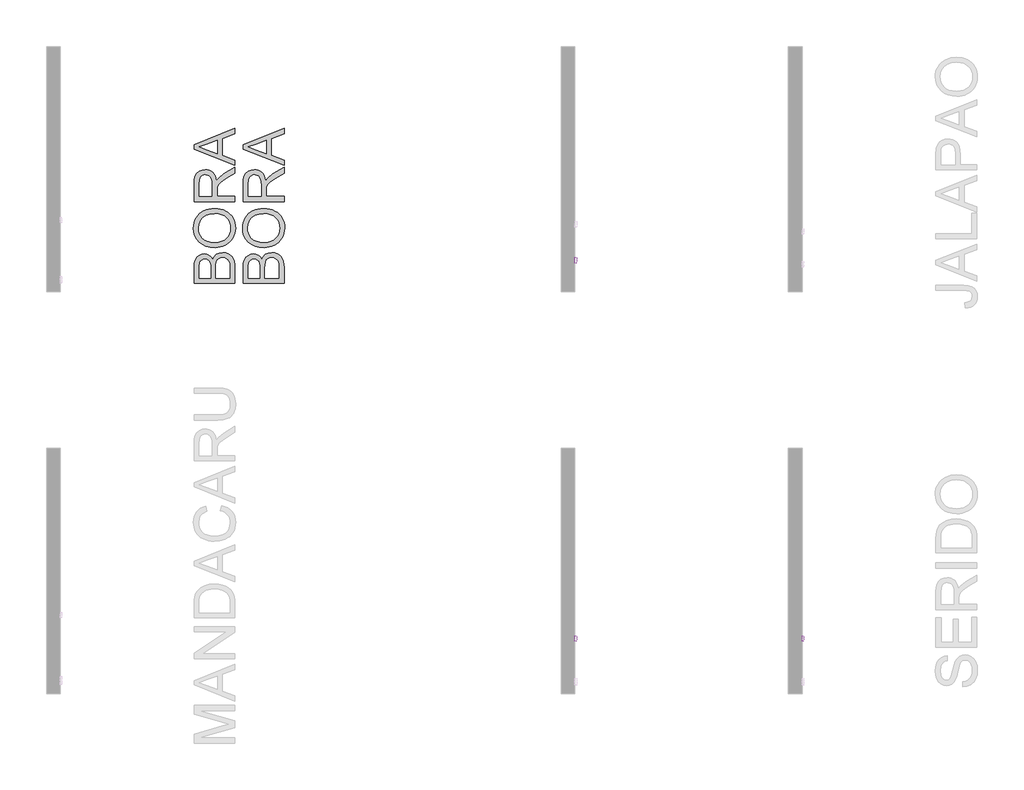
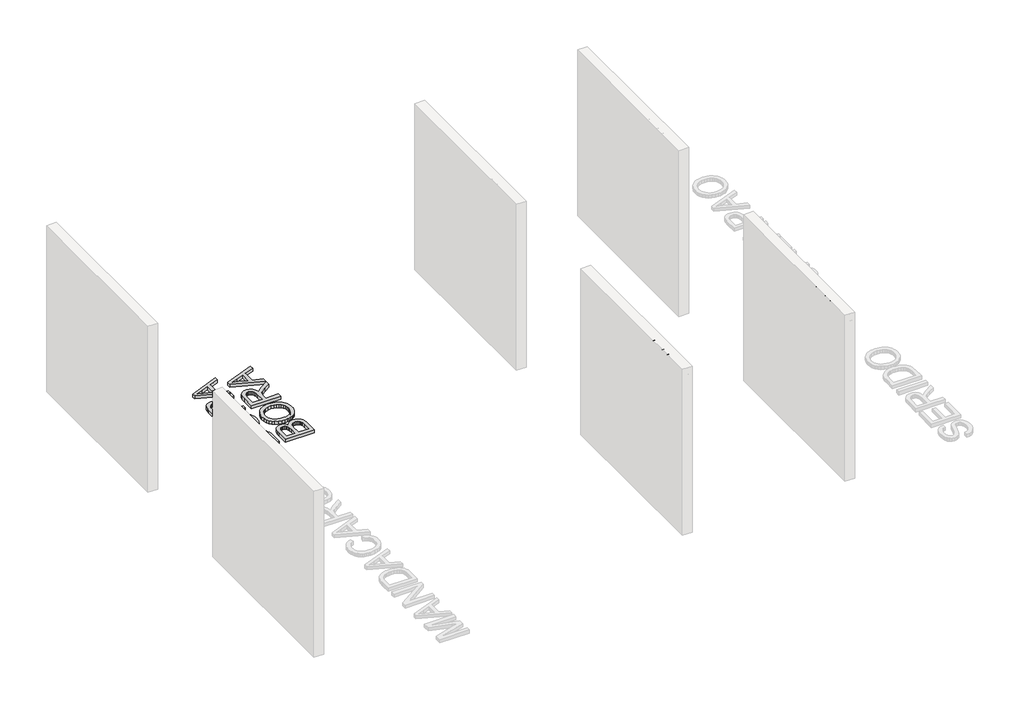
# One storey, part 9 of 11: 4 proxies.
"""IFC4 building model written with IfcOpenShell, lengths in millimetres."""

from ifc_helpers import new_model, si_unit, frame, origin, origin_with_axes, place, context, project, spatial, polyline, outline, extrude, element, save

model = new_model("IFC4")

# Units and contexts
model_context = context("Model", 3, world=origin())
ifc_project = project(units=[si_unit("LENGTHUNIT", "METRE", prefix="MILLI")], contexts=[model_context])

# Site, building, storey
site = spatial("IfcSite", under=ifc_project)
building = spatial("IfcBuilding", under=site)
storey = spatial("IfcBuildingStorey", under=building, Name="PORTOBELLO - SHOWROOM", Elevation=0.0)

# Proxies
placement = place(None, origin())
element("IfcBuildingElementProxy", 1, Name="10mm Arial", ObjectType="10mm Arial", at=placement, inside=storey, context=model_context, shape_type="SweptSolid", body=[
    extrude(outline(polyline([(6073.6705647, 2506.4304512), (6086.2276035, 2508.049132), (6090.5195601, 2493.2112249), (6101.1145616, 2489.2135739), (6109.7107375, 2491.4821795), (6114.6894072, 2497.662597), (6116.0505706, 2510.1092712), (6116.0505706, 2578.6824751), (6128.6076093, 2578.6824751), (6128.6076093, 2510.3300004), (6125.5787143, 2490.8199919), (6115.9647314, 2480.2863041), (6100.5259504, 2476.6565351), (6088.9192734, 2478.5296676), (6080.3905425, 2484.1490651), (6075.2156691, 2493.4656766), (6073.6705647, 2506.4304512)])), frame((-19283.2092306, 0.0, 0.0), z_axis=(1.0, 0.0, 0.0), x_axis=(0.0, 1.0, 0.0)), (0.0, 0.0, 1.0), 20.0),
    extrude(outline(polyline([(6196.1016927, 2487.643944), (6183.9247987, 2479.1336072), (6170.4725804, 2476.6565351), (6159.9787465, 2478.1464572), (6152.2378962, 2482.6162234), (6147.4646273, 2489.4036462), (6145.8735377, 2497.846538), (6148.2770334, 2507.7793519), (6154.5923409, 2514.989839), (6163.3847206, 2519.1101173), (6174.2495022, 2520.9985782), (6196.0281163, 2525.3150603), (6196.1016927, 2528.1109635), (6192.643602, 2537.3815898), (6178.762188, 2541.0113588), (6166.0579965, 2538.5956003), (6160.0002063, 2530.0239499), (6147.4431675, 2531.5935797), (6152.8755583, 2543.8563129), (6163.8139163, 2551.0422745), (6180.3808688, 2553.5683975), (6195.5989207, 2551.3365801), (6204.1950966, 2545.732511), (6208.0455948, 2537.2099115), (6208.6587315, 2526.2225026), (6208.6587315, 2510.5997805), (6209.2963936, 2488.7843782), (6211.7979912, 2478.2261649), (6199.2409524, 2478.2261649), (6196.1016927, 2487.643944)]), holes=[polyline([(6196.1016927, 2512.7580215), (6175.8436575, 2508.9075233), (6165.0401896, 2506.8719096), (6160.1473591, 2503.5609717), (6158.4305764, 2498.7294548), (6162.17071, 2491.9359006), (6173.1458562, 2489.2135739), (6185.8500478, 2492.2179435), (6194.0415536, 2499.4897443), (6196.0281163, 2509.2018289), (6196.1016927, 2512.7580215)])]), frame((-19283.2092306, 0.0, 0.0), z_axis=(1.0, 0.0, 0.0), x_axis=(0.0, 1.0, 0.0)), (0.0, 0.0, 1.0), 20.0),
    extrude(outline(polyline([(6225.9246598, 2449.9728277), (6225.9246598, 2551.9987677), (6238.4816986, 2551.9987677), (6238.4816986, 2539.6869836), (6247.1637137, 2550.0980441), (6258.8868866, 2553.5683975), (6274.8039142, 2548.7123552), (6285.202712, 2535.027145), (6288.7098537, 2515.676552), (6284.7489908, 2495.3326777), (6273.2465471, 2481.4757892), (6257.3663077, 2476.6565351), (6246.4402124, 2479.8816339), (6238.4816986, 2488.0363515), (6238.4816986, 2449.9728277), (6225.9246598, 2449.9728277)]), holes=[polyline([(6238.4816986, 2514.5238551), (6239.8397963, 2503.2666661), (6243.9140894, 2495.3939914), (6249.9258943, 2490.7586782), (6257.0965275, 2489.2135739), (6264.3836567, 2490.8138605), (6270.5487458, 2495.6147206), (6274.7517976, 2503.7755695), (6276.1528149, 2515.4558228), (6274.7855201, 2526.6516982), (6270.6836359, 2534.6347375), (6264.681028, 2539.4172035), (6257.6115623, 2541.0113588), (6250.5145055, 2539.3160359), (6244.2819714, 2534.2300673), (6239.9317668, 2525.9128686), (6238.4816986, 2514.5238551)])]), frame((-19283.2092306, 0.0, 0.0), z_axis=(1.0, 0.0, 0.0), x_axis=(0.0, 1.0, 0.0)), (0.0, 0.0, 1.0), 20.0),
    extrude(outline(polyline([(6349.9254176, 2487.643944), (6337.7485236, 2479.1336072), (6324.2963053, 2476.6565351), (6313.8024714, 2478.1464572), (6306.0616211, 2482.6162234), (6301.2883522, 2489.4036462), (6299.6972626, 2497.846538), (6302.1007583, 2507.7793519), (6308.4160659, 2514.989839), (6317.2084455, 2519.1101173), (6328.0732271, 2520.9985782), (6349.8518412, 2525.3150603), (6349.9254176, 2528.1109635), (6346.4673269, 2537.3815898), (6332.5859129, 2541.0113588), (6319.8817214, 2538.5956003), (6313.8239312, 2530.0239499), (6301.2668924, 2531.5935797), (6306.6992832, 2543.8563129), (6317.6376412, 2551.0422745), (6334.2045937, 2553.5683975), (6349.4226456, 2551.3365801), (6358.0188215, 2545.732511), (6361.8693198, 2537.2099115), (6362.4824564, 2526.2225026), (6362.4824564, 2510.5997805), (6363.1201185, 2488.7843782), (6365.6217161, 2478.2261649), (6353.0646773, 2478.2261649), (6349.9254176, 2487.643944)]), holes=[polyline([(6349.9254176, 2512.7580215), (6329.6673824, 2508.9075233), (6318.8639145, 2506.8719096), (6313.971084, 2503.5609717), (6312.2543013, 2498.7294548), (6315.994435, 2491.9359006), (6326.9695811, 2489.2135739), (6339.6737727, 2492.2179435), (6347.8652785, 2499.4897443), (6349.8518412, 2509.2018289), (6349.9254176, 2512.7580215)])]), frame((-19283.2092306, 0.0, 0.0), z_axis=(1.0, 0.0, 0.0), x_axis=(0.0, 1.0, 0.0)), (0.0, 0.0, 1.0), 20.0),
    extrude(outline(polyline([(-19263.2092306, 6392.3054235), (-19263.2092306, 6379.7483847), (-19283.2092306, 6379.7483847), (-19283.2092306, 6392.3054235), (-19263.2092306, 6392.3054235)])), frame((0.0, 0.0, 2478.2261649), z_axis=(0.0, 0.0, 1.0), x_axis=(1.0, 0.0, 0.0)), (0.0, 0.0, 1.0), 100.4563101),
    extrude(outline(polyline([(6411.1409816, 2449.9728277), (6411.1409816, 2551.9987677), (6423.6980204, 2551.9987677), (6423.6980204, 2539.6869836), (6432.3800355, 2550.0980441), (6444.1032084, 2553.5683975), (6460.0202361, 2548.7123552), (6470.4190338, 2535.027145), (6473.9261755, 2515.676552), (6469.9653127, 2495.3326777), (6458.462869, 2481.4757892), (6442.5826295, 2476.6565351), (6431.6565342, 2479.8816339), (6423.6980204, 2488.0363515), (6423.6980204, 2449.9728277), (6411.1409816, 2449.9728277)]), holes=[polyline([(6423.6980204, 2514.5238551), (6425.0561181, 2503.2666661), (6429.1304112, 2495.3939914), (6435.1422161, 2490.7586782), (6442.3128494, 2489.2135739), (6449.5999786, 2490.8138605), (6455.7650677, 2495.6147206), (6459.9681195, 2503.7755695), (6461.3691367, 2515.4558228), (6460.001842, 2526.6516982), (6455.8999577, 2534.6347375), (6449.8973498, 2539.4172035), (6442.8278842, 2541.0113588), (6435.7308273, 2539.3160359), (6429.4982932, 2534.2300673), (6425.1480886, 2525.9128686), (6423.6980204, 2514.5238551)])]), frame((-19283.2092306, 0.0, 0.0), z_axis=(1.0, 0.0, 0.0), x_axis=(0.0, 1.0, 0.0)), (0.0, 0.0, 1.0), 20.0),
    extrude(outline(polyline([(6535.1417395, 2487.643944), (6522.9648454, 2479.1336072), (6509.5126272, 2476.6565351), (6499.0187932, 2478.1464572), (6491.2779429, 2482.6162234), (6486.504674, 2489.4036462), (6484.9135844, 2497.846538), (6487.3170801, 2507.7793519), (6493.6323877, 2514.989839), (6502.4247674, 2519.1101173), (6513.289549, 2520.9985782), (6535.0681631, 2525.3150603), (6535.1417395, 2528.1109635), (6531.6836487, 2537.3815898), (6517.8022348, 2541.0113588), (6505.0980432, 2538.5956003), (6499.040253, 2530.0239499), (6486.4832143, 2531.5935797), (6491.9156051, 2543.8563129), (6502.853963, 2551.0422745), (6519.4209156, 2553.5683975), (6534.6389674, 2551.3365801), (6543.2351434, 2545.732511), (6547.0856416, 2537.2099115), (6547.6987783, 2526.2225026), (6547.6987783, 2510.5997805), (6548.3364404, 2488.7843782), (6550.8380379, 2478.2261649), (6538.2809992, 2478.2261649), (6535.1417395, 2487.643944)]), holes=[polyline([(6535.1417395, 2512.7580215), (6514.8837043, 2508.9075233), (6504.0802364, 2506.8719096), (6499.1874058, 2503.5609717), (6497.4706232, 2498.7294548), (6501.2107568, 2491.9359006), (6512.185903, 2489.2135739), (6524.8900946, 2492.2179435), (6533.0816003, 2499.4897443), (6535.0681631, 2509.2018289), (6535.1417395, 2512.7580215)])]), frame((-19283.2092306, 0.0, 0.0), z_axis=(1.0, 0.0, 0.0), x_axis=(0.0, 1.0, 0.0)), (0.0, 0.0, 1.0), 20.0),
    extrude(outline(polyline([(6561.8254469, 2515.1124663), (6564.5416423, 2532.8995608), (6572.6902285, 2545.4014173), (6582.7579324, 2551.5266525), (6594.8121991, 2553.5683975), (6608.0038343, 2551.0821284), (6618.5405878, 2543.6233209), (6625.4475723, 2531.7805864), (6627.7499004, 2516.1425359), (6623.678673, 2493.7998361), (6611.82061, 2481.1569582), (6594.8121991, 2476.6565351), (6581.4611484, 2479.1336072), (6570.9366576, 2486.5648235), (6564.1032496, 2498.6558784), (6561.8254469, 2515.1124663)]), holes=[polyline([(6574.3824856, 2515.1369918), (6575.8356195, 2503.7725038), (6580.1950212, 2495.6760342), (6586.7555834, 2490.829189), (6594.8121991, 2489.2135739), (6602.8320266, 2490.838386), (6609.3803261, 2495.7128224), (6613.7397278, 2503.9165909), (6615.1928616, 2515.5293992), (6613.7305307, 2526.5627934), (6609.3435379, 2534.5488984), (6602.7860413, 2539.3957437), (6594.8121991, 2541.0113588), (6586.7555834, 2539.401875), (6580.1950212, 2534.5734239), (6575.8356195, 2526.4953484), (6574.3824856, 2515.1369918)])]), frame((-19283.2092306, 0.0, 0.0), z_axis=(1.0, 0.0, 0.0), x_axis=(0.0, 1.0, 0.0)), (0.0, 0.0, 1.0), 20.0),
])
element("IfcBuildingElementProxy", 2, Name="10mm Arial Narrow", ObjectType="10mm Arial Narrow", at=placement, inside=storey, context=model_context, shape_type="SweptSolid", body=[
    extrude(outline(polyline([(2137.0841432, 2478.2261649), (2137.0841432, 2578.9447687), (2168.3810279, 2578.9447687), (2184.6767294, 2577.066448), (2196.1497156, 2567.5860048), (2200.439394, 2550.566896), (2198.6530856, 2538.4910704), (2193.2941604, 2528.8646766), (2183.5503716, 2522.5634182), (2168.6094723, 2520.4629988), (2146.8311049, 2520.4629988), (2146.8311049, 2478.2261649), (2137.0841432, 2478.2261649)]), holes=[polyline([(2146.8311049, 2531.834454), (2169.8024598, 2531.834454), (2185.6666552, 2536.3652682), (2190.6924323, 2550.033859), (2188.2176179, 2560.1996354), (2182.239989, 2565.9995852), (2169.5740154, 2567.5733134), (2146.8311049, 2567.5733134), (2146.8311049, 2531.834454)])]), frame((-16783.2092306, 0.0, 0.0), z_axis=(1.0, 0.0, 0.0), x_axis=(0.0, 1.0, 0.0)), (0.0, 0.0, 1.0), 20.0),
    extrude(outline(polyline([(2208.561862, 2514.7772711), (2210.5163309, 2531.3680467), (2216.3797375, 2543.3201315), (2225.2383042, 2550.5446861), (2236.1782534, 2552.9528709), (2246.991289, 2550.5446861), (2255.8752384, 2543.3201315), (2261.8147932, 2531.558417), (2263.7946447, 2515.5387525), (2261.8496944, 2498.3768659), (2256.0148433, 2486.2344108), (2247.1657951, 2479.0098562), (2236.1782534, 2476.6016713), (2225.3176252, 2479.0162019), (2216.4431943, 2486.2597935), (2210.5321951, 2498.218224), (2208.561862, 2514.7772711)]), holes=[polyline([(2218.3088237, 2514.8026538), (2219.6128606, 2502.2509024), (2223.5249711, 2493.3796444), (2229.3661679, 2488.1063858), (2236.4574632, 2486.348633), (2243.1775364, 2488.12225), (2248.8696097, 2493.4431012), (2252.7531647, 2502.3302234), (2254.0476831, 2514.8026538), (2252.7436462, 2527.3163312), (2248.8315356, 2536.1748979), (2242.9903389, 2541.4481564), (2235.8990435, 2543.2059093), (2229.1313778, 2541.4386379), (2223.448823, 2536.1368238), (2219.5938235, 2527.2687386), (2218.3088237, 2514.8026538)])]), frame((-16783.2092306, 0.0, 0.0), z_axis=(1.0, 0.0, 0.0), x_axis=(0.0, 1.0, 0.0)), (0.0, 0.0, 1.0), 20.0),
    extrude(outline(polyline([(2335.2723635, 2486.348633), (2336.8968571, 2476.6016713), (2329.5358705, 2476.6016713), (2321.2611062, 2478.7211278), (2316.946045, 2484.5210777), (2315.7784402, 2499.1669029), (2315.7784402, 2541.5814157), (2307.6559722, 2541.5814157), (2307.6559722, 2544.8304029), (2306.0314786, 2539.9569221), (2298.4674302, 2541.5814157), (2292.3882705, 2539.2588975), (2288.5174068, 2532.7736144), (2286.5375553, 2517.3663078), (2286.5375553, 2478.2261649), (2276.7905936, 2478.2261649), (2276.7905936, 2551.3283773), (2286.5375553, 2551.3283773), (2286.5375553, 2541.6321811), (2292.7817026, 2550.7191922), (2299.1781462, 2552.9528709), (2307.6559722, 2551.3283773), (2315.7784402, 2551.3283773), (2315.7784402, 2567.5733134), (2325.5254019, 2575.6957815), (2325.5254019, 2551.3283773), (2335.2723635, 2551.3283773), (2335.2723635, 2541.5814157), (2325.5254019, 2541.5814157), (2325.5254019, 2496.9332241), (2326.3884141, 2488.9376697), (2331.0080678, 2486.348633), (2335.2723635, 2486.348633)])), frame((-16783.2092306, 0.0, 0.0), z_axis=(1.0, 0.0, 0.0), x_axis=(0.0, 1.0, 0.0)), (0.0, 0.0, 1.0), 20.0),
    extrude(outline(polyline([(2341.770338, 2514.7772711), (2343.7248068, 2531.3680467), (2349.5882135, 2543.3201315), (2358.4467802, 2550.5446861), (2369.3867293, 2552.9528709), (2380.1997649, 2550.5446861), (2389.0837143, 2543.3201315), (2395.0232691, 2531.558417), (2397.0031207, 2515.5387525), (2395.0581703, 2498.3768659), (2389.2233192, 2486.2344108), (2380.3742711, 2479.0098562), (2369.3867293, 2476.6016713), (2358.5261011, 2479.0162019), (2349.6516702, 2486.2597935), (2343.740671, 2498.218224), (2341.770338, 2514.7772711)]), holes=[polyline([(2351.5172996, 2514.8026538), (2352.8213365, 2502.2509024), (2356.7334471, 2493.3796444), (2362.5746438, 2488.1063858), (2369.6659392, 2486.348633), (2376.3860123, 2488.12225), (2382.0780856, 2493.4431012), (2385.9616407, 2502.3302234), (2387.256159, 2514.8026538), (2385.9521222, 2527.3163312), (2382.0400116, 2536.1748979), (2376.1988148, 2541.4481564), (2369.1075195, 2543.2059093), (2362.3398537, 2541.4386379), (2356.6572989, 2536.1368238), (2352.8022994, 2527.2687386), (2351.5172996, 2514.8026538)])]), frame((-16783.2092306, 0.0, 0.0), z_axis=(1.0, 0.0, 0.0), x_axis=(0.0, 1.0, 0.0)), (0.0, 0.0, 1.0), 20.0),
    extrude(outline(polyline([(2419.7460312, 2478.2261649), (2409.9990695, 2478.2261649), (2409.9990695, 2578.9447687), (2419.7460312, 2578.9447687), (2419.7460312, 2543.5358846), (2427.1450919, 2550.6176614), (2436.3463253, 2552.9528709), (2449.2280519, 2548.752032), (2458.5054334, 2536.0226016), (2461.982865, 2515.3356908), (2460.050606, 2498.8813473), (2454.253829, 2486.6786082), (2445.8807067, 2479.1209056), (2436.2194117, 2476.6016713), (2426.8785734, 2479.2160907), (2419.7460312, 2486.9832008), (2419.7460312, 2478.2261649)]), holes=[polyline([(2419.7460312, 2515.3356908), (2421.8274136, 2498.0881376), (2427.716203, 2489.3564844), (2436.1686463, 2486.348633), (2442.1113739, 2488.1381142), (2447.3497312, 2493.5065579), (2452.2359034, 2514.9295674), (2447.5274102, 2536.3652682), (2442.2827072, 2541.495749), (2435.9655846, 2543.2059093), (2429.9879557, 2541.416428), (2424.6956602, 2536.0479843), (2419.7460312, 2515.3356908)])]), frame((-16783.2092306, 0.0, 0.0), z_axis=(1.0, 0.0, 0.0), x_axis=(0.0, 1.0, 0.0)), (0.0, 0.0, 1.0), 20.0),
    extrude(outline(polyline([(2513.9666605, 2500.9690755), (2523.7136222, 2499.3445819), (2520.0140918, 2489.4580153), (2514.1951049, 2482.3381644), (2506.4914516, 2478.0357946), (2497.137922, 2476.6016713), (2485.544368, 2479.0162019), (2476.4002458, 2486.2597935), (2470.460691, 2498.0659277), (2468.4808395, 2514.168086), (2470.4702096, 2530.8350097), (2476.4383199, 2543.0155389), (2485.4523557, 2550.4685379), (2496.5795024, 2552.9528709), (2507.2624515, 2550.5542046), (2516.0099689, 2543.3582056), (2521.8448199, 2531.618701), (2523.7897703, 2515.5895179), (2523.7136222, 2512.3405307), (2478.2278011, 2512.3405307), (2484.2308127, 2492.8973728), (2490.1608489, 2487.9858179), (2497.2648356, 2486.348633), (2507.4433034, 2490.0037436), (2513.9666605, 2500.9690755)]), holes=[polyline([(2478.8877516, 2522.0874924), (2513.9666605, 2522.0874924), (2509.7023648, 2536.3525769), (2503.8770322, 2541.4925762), (2496.6556505, 2543.2059093), (2484.4465657, 2537.4947989), (2478.8877516, 2522.0874924)])]), frame((-16783.2092306, 0.0, 0.0), z_axis=(1.0, 0.0, 0.0), x_axis=(0.0, 1.0, 0.0)), (0.0, 0.0, 1.0), 20.0),
    extrude(outline(polyline([(-16763.2092306, 2546.4565327), (-16763.2092306, 2536.709571), (-16783.2092306, 2536.709571), (-16783.2092306, 2546.4565327), (-16763.2092306, 2546.4565327)])), frame((0.0, 0.0, 2478.2261649), z_axis=(0.0, 0.0, 1.0), x_axis=(1.0, 0.0, 0.0)), (0.0, 0.0, 1.0), 100.7186038),
    extrude(outline(polyline([(-16763.2092306, 2572.4484304), (-16763.2092306, 2562.7014688), (-16783.2092306, 2562.7014688), (-16783.2092306, 2572.4484304), (-16763.2092306, 2572.4484304)])), frame((0.0, 0.0, 2478.2261649), z_axis=(0.0, 0.0, 1.0), x_axis=(1.0, 0.0, 0.0)), (0.0, 0.0, 1.0), 100.7186038),
    extrude(outline(polyline([(2583.8198857, 2514.7772711), (2585.7743546, 2531.3680467), (2591.6377612, 2543.3201315), (2600.4963279, 2550.5446861), (2611.436277, 2552.9528709), (2622.2493126, 2550.5446861), (2631.1332621, 2543.3201315), (2637.0728168, 2531.558417), (2639.0526684, 2515.5387525), (2637.107718, 2498.3768659), (2631.272867, 2486.2344108), (2622.4238188, 2479.0098562), (2611.436277, 2476.6016713), (2600.5756489, 2479.0162019), (2591.701218, 2486.2597935), (2585.7902188, 2498.218224), (2583.8198857, 2514.7772711)]), holes=[polyline([(2593.5668473, 2514.8026538), (2594.8708842, 2502.2509024), (2598.7829948, 2493.3796444), (2604.6241915, 2488.1063858), (2611.7154869, 2486.348633), (2618.4355601, 2488.12225), (2624.1276334, 2493.4431012), (2628.0111884, 2502.3302234), (2629.3057067, 2514.8026538), (2628.0016699, 2527.3163312), (2624.0895593, 2536.1748979), (2618.2483626, 2541.4481564), (2611.1570672, 2543.2059093), (2604.3894015, 2541.4386379), (2598.7068467, 2536.1368238), (2594.8518472, 2527.2687386), (2593.5668473, 2514.8026538)])]), frame((-16783.2092306, 0.0, 0.0), z_axis=(1.0, 0.0, 0.0), x_axis=(0.0, 1.0, 0.0)), (0.0, 0.0, 1.0), 20.0),
])
element("IfcBuildingElementProxy", 3, Name="10mm Arial Narrow", ObjectType="10mm Arial Narrow", at=placement, inside=storey, context=model_context, shape_type="SweptSolid", body=[
    extrude(outline(polyline([(2137.0841432, 2478.2261649), (2137.0841432, 2578.9447687), (2168.3810279, 2578.9447687), (2184.6767294, 2577.066448), (2196.1497156, 2567.5860048), (2200.439394, 2550.566896), (2198.6530856, 2538.4910704), (2193.2941604, 2528.8646766), (2183.5503716, 2522.5634182), (2168.6094723, 2520.4629988), (2146.8311049, 2520.4629988), (2146.8311049, 2478.2261649), (2137.0841432, 2478.2261649)]), holes=[polyline([(2146.8311049, 2531.834454), (2169.8024598, 2531.834454), (2185.6666552, 2536.3652682), (2190.6924323, 2550.033859), (2188.2176179, 2560.1996354), (2182.239989, 2565.9995852), (2169.5740154, 2567.5733134), (2146.8311049, 2567.5733134), (2146.8311049, 2531.834454)])]), frame((-19283.2092306, 0.0, 0.0), z_axis=(1.0, 0.0, 0.0), x_axis=(0.0, 1.0, 0.0)), (0.0, 0.0, 1.0), 20.0),
    extrude(outline(polyline([(2208.561862, 2514.7772711), (2210.5163309, 2531.3680467), (2216.3797375, 2543.3201315), (2225.2383042, 2550.5446861), (2236.1782534, 2552.9528709), (2246.991289, 2550.5446861), (2255.8752384, 2543.3201315), (2261.8147932, 2531.558417), (2263.7946447, 2515.5387525), (2261.8496944, 2498.3768659), (2256.0148433, 2486.2344108), (2247.1657951, 2479.0098562), (2236.1782534, 2476.6016713), (2225.3176252, 2479.0162019), (2216.4431943, 2486.2597935), (2210.5321951, 2498.218224), (2208.561862, 2514.7772711)]), holes=[polyline([(2218.3088237, 2514.8026538), (2219.6128605, 2502.2509024), (2223.5249711, 2493.3796444), (2229.3661679, 2488.1063858), (2236.4574632, 2486.348633), (2243.1775364, 2488.12225), (2248.8696097, 2493.4431012), (2252.7531647, 2502.3302234), (2254.0476831, 2514.8026538), (2252.7436462, 2527.3163312), (2248.8315356, 2536.1748979), (2242.9903389, 2541.4481564), (2235.8990435, 2543.2059093), (2229.1313778, 2541.4386379), (2223.448823, 2536.1368238), (2219.5938235, 2527.2687386), (2218.3088237, 2514.8026538)])]), frame((-19283.2092306, 0.0, 0.0), z_axis=(1.0, 0.0, 0.0), x_axis=(0.0, 1.0, 0.0)), (0.0, 0.0, 1.0), 20.0),
    extrude(outline(polyline([(2335.2723635, 2486.348633), (2336.8968571, 2476.6016713), (2329.5358705, 2476.6016713), (2321.2611062, 2478.7211278), (2316.946045, 2484.5210777), (2315.7784402, 2499.1669029), (2315.7784402, 2541.5814157), (2307.6559722, 2541.5814157), (2307.6559722, 2544.8304029), (2306.0314786, 2539.9569221), (2298.4674302, 2541.5814157), (2292.3882705, 2539.2588975), (2288.5174068, 2532.7736144), (2286.5375553, 2517.3663078), (2286.5375553, 2478.2261649), (2276.7905936, 2478.2261649), (2276.7905936, 2551.3283773), (2286.5375553, 2551.3283773), (2286.5375553, 2541.6321811), (2292.7817026, 2550.7191922), (2299.1781462, 2552.9528709), (2307.6559722, 2551.3283773), (2315.7784402, 2551.3283773), (2315.7784402, 2567.5733134), (2325.5254019, 2575.6957815), (2325.5254019, 2551.3283773), (2335.2723635, 2551.3283773), (2335.2723635, 2541.5814157), (2325.5254019, 2541.5814157), (2325.5254019, 2496.9332241), (2326.3884141, 2488.9376697), (2331.0080678, 2486.348633), (2335.2723635, 2486.348633)])), frame((-19283.2092306, 0.0, 0.0), z_axis=(1.0, 0.0, 0.0), x_axis=(0.0, 1.0, 0.0)), (0.0, 0.0, 1.0), 20.0),
    extrude(outline(polyline([(2341.770338, 2514.7772711), (2343.7248068, 2531.3680467), (2349.5882135, 2543.3201315), (2358.4467802, 2550.5446861), (2369.3867293, 2552.9528709), (2380.1997649, 2550.5446861), (2389.0837143, 2543.3201315), (2395.0232691, 2531.558417), (2397.0031207, 2515.5387525), (2395.0581703, 2498.3768659), (2389.2233192, 2486.2344108), (2380.3742711, 2479.0098562), (2369.3867293, 2476.6016713), (2358.5261011, 2479.0162019), (2349.6516702, 2486.2597935), (2343.740671, 2498.218224), (2341.770338, 2514.7772711)]), holes=[polyline([(2351.5172996, 2514.8026538), (2352.8213365, 2502.2509024), (2356.7334471, 2493.3796444), (2362.5746438, 2488.1063858), (2369.6659392, 2486.348633), (2376.3860123, 2488.12225), (2382.0780856, 2493.4431012), (2385.9616407, 2502.3302234), (2387.256159, 2514.8026538), (2385.9521222, 2527.3163312), (2382.0400116, 2536.1748979), (2376.1988148, 2541.4481564), (2369.1075195, 2543.2059093), (2362.3398537, 2541.4386379), (2356.6572989, 2536.1368238), (2352.8022994, 2527.2687386), (2351.5172996, 2514.8026538)])]), frame((-19283.2092306, 0.0, 0.0), z_axis=(1.0, 0.0, 0.0), x_axis=(0.0, 1.0, 0.0)), (0.0, 0.0, 1.0), 20.0),
    extrude(outline(polyline([(2419.7460312, 2478.2261649), (2409.9990695, 2478.2261649), (2409.9990695, 2578.9447687), (2419.7460312, 2578.9447687), (2419.7460312, 2543.5358846), (2427.1450919, 2550.6176614), (2436.3463253, 2552.9528709), (2449.2280519, 2548.752032), (2458.5054334, 2536.0226016), (2461.982865, 2515.3356908), (2460.050606, 2498.8813473), (2454.253829, 2486.6786082), (2445.8807067, 2479.1209056), (2436.2194117, 2476.6016713), (2426.8785734, 2479.2160907), (2419.7460312, 2486.9832008), (2419.7460312, 2478.2261649)]), holes=[polyline([(2419.7460312, 2515.3356908), (2421.8274136, 2498.0881376), (2427.716203, 2489.3564844), (2436.1686463, 2486.348633), (2442.1113739, 2488.1381142), (2447.3497312, 2493.5065579), (2452.2359034, 2514.9295674), (2447.5274102, 2536.3652682), (2442.2827072, 2541.495749), (2435.9655846, 2543.2059093), (2429.9879557, 2541.416428), (2424.6956602, 2536.0479843), (2419.7460312, 2515.3356908)])]), frame((-19283.2092306, 0.0, 0.0), z_axis=(1.0, 0.0, 0.0), x_axis=(0.0, 1.0, 0.0)), (0.0, 0.0, 1.0), 20.0),
    extrude(outline(polyline([(2513.9666605, 2500.9690755), (2523.7136222, 2499.3445819), (2520.0140918, 2489.4580153), (2514.1951049, 2482.3381644), (2506.4914516, 2478.0357946), (2497.137922, 2476.6016713), (2485.544368, 2479.0162019), (2476.4002458, 2486.2597935), (2470.460691, 2498.0659277), (2468.4808395, 2514.168086), (2470.4702096, 2530.8350097), (2476.4383199, 2543.0155389), (2485.4523557, 2550.4685379), (2496.5795024, 2552.9528709), (2507.2624515, 2550.5542046), (2516.0099689, 2543.3582056), (2521.8448199, 2531.618701), (2523.7897703, 2515.5895179), (2523.7136222, 2512.3405307), (2478.2278011, 2512.3405307), (2484.2308127, 2492.8973728), (2490.1608489, 2487.9858179), (2497.2648356, 2486.348633), (2507.4433034, 2490.0037436), (2513.9666605, 2500.9690755)]), holes=[polyline([(2478.8877516, 2522.0874924), (2513.9666605, 2522.0874924), (2509.7023648, 2536.3525769), (2503.8770322, 2541.4925762), (2496.6556505, 2543.2059093), (2484.4465657, 2537.4947989), (2478.8877516, 2522.0874924)])]), frame((-19283.2092306, 0.0, 0.0), z_axis=(1.0, 0.0, 0.0), x_axis=(0.0, 1.0, 0.0)), (0.0, 0.0, 1.0), 20.0),
    extrude(outline(polyline([(-19263.2092306, 2546.4565327), (-19263.2092306, 2536.709571), (-19283.2092306, 2536.709571), (-19283.2092306, 2546.4565327), (-19263.2092306, 2546.4565327)])), frame((0.0, 0.0, 2478.2261649), z_axis=(0.0, 0.0, 1.0), x_axis=(1.0, 0.0, 0.0)), (0.0, 0.0, 1.0), 100.7186038),
    extrude(outline(polyline([(-19263.2092306, 2572.4484304), (-19263.2092306, 2562.7014688), (-19283.2092306, 2562.7014688), (-19283.2092306, 2572.4484304), (-19263.2092306, 2572.4484304)])), frame((0.0, 0.0, 2478.2261649), z_axis=(0.0, 0.0, 1.0), x_axis=(1.0, 0.0, 0.0)), (0.0, 0.0, 1.0), 100.7186038),
    extrude(outline(polyline([(2583.8198857, 2514.7772711), (2585.7743546, 2531.3680467), (2591.6377612, 2543.3201315), (2600.4963279, 2550.5446861), (2611.436277, 2552.9528709), (2622.2493126, 2550.5446861), (2631.1332621, 2543.3201315), (2637.0728168, 2531.558417), (2639.0526684, 2515.5387525), (2637.107718, 2498.3768659), (2631.272867, 2486.2344108), (2622.4238188, 2479.0098562), (2611.436277, 2476.6016713), (2600.5756489, 2479.0162019), (2591.701218, 2486.2597935), (2585.7902188, 2498.218224), (2583.8198857, 2514.7772711)]), holes=[polyline([(2593.5668473, 2514.8026538), (2594.8708842, 2502.2509024), (2598.7829948, 2493.3796444), (2604.6241915, 2488.1063858), (2611.7154869, 2486.348633), (2618.4355601, 2488.12225), (2624.1276334, 2493.4431012), (2628.0111884, 2502.3302234), (2629.3057067, 2514.8026538), (2628.0016699, 2527.3163312), (2624.0895593, 2536.1748979), (2618.2483626, 2541.4481564), (2611.1570672, 2543.2059093), (2604.3894014, 2541.4386379), (2598.7068467, 2536.1368238), (2594.8518472, 2527.2687386), (2593.5668473, 2514.8026538)])]), frame((-19283.2092306, 0.0, 0.0), z_axis=(1.0, 0.0, 0.0), x_axis=(0.0, 1.0, 0.0)), (0.0, 0.0, 1.0), 20.0),
])
element("IfcBuildingElementProxy", 4, Name="450mm Arial", ObjectType="450mm Arial", at=placement, inside=storey, context=model_context, shape_type="SweptSolid", body=[
    extrude(outline(polyline([(-23024.8078378, 6078.7709195), (-23474.4639806, 6078.7709195), (-23474.4639806, 6250.356015), (-23471.1568783, 6297.5474052), (-23461.2355712, 6334.3920934), (-23444.4530558, 6362.6328265), (-23420.5623287, 6384.0123514), (-23392.4588198, 6397.4740419), (-23363.0379589, 6401.9612721), (-23335.9636312, 6398.1876076), (-23310.5085487, 6386.866614), (-23288.2370668, 6367.9159569), (-23270.7135409, 6341.2533017), (-23254.0819722, 6373.1030303), (-23228.7778362, 6396.6369745), (-23196.4752678, 6411.1690136), (-23158.8484019, 6416.0130266), (-23127.4926802, 6412.7059242), (-23098.4148798, 6402.7846171), (-23073.6870853, 6387.9781298), (-23055.3813817, 6370.0154866), (-23042.1255274, 6348.018453), (-23032.5472807, 6321.1087943), (-23026.7426985, 6288.4082759), (-23024.8078378, 6249.038663), (-23024.8078378, 6078.7709195)]), holes=[polyline([(-23291.7911726, 6134.9779373), (-23291.7911726, 6237.6216125), (-23292.9987453, 6273.519454), (-23296.6214632, 6297.5611276), (-23304.95097, 6318.5427024), (-23317.4246466, 6333.6236381), (-23333.8503791, 6342.7216002), (-23354.0360537, 6345.7542543), (-23373.6316644, 6342.9274365), (-23390.7023505, 6334.4469831), (-23404.0268169, 6320.6971218), (-23412.3837685, 6302.0620802), (-23416.7886642, 6273.4645643), (-23418.2569628, 6229.82728), (-23418.2569628, 6134.9779373), (-23291.7911726, 6134.9779373)]), polyline([(-23081.0148557, 6134.9779373), (-23081.0148557, 6250.2462357), (-23083.2104423, 6291.9623817), (-23088.0819002, 6311.3247114), (-23095.4508378, 6327.2564369), (-23106.0033761, 6340.210398), (-23120.4256358, 6350.6394345), (-23138.0726633, 6357.5143652), (-23158.2995052, 6359.8060087), (-23181.7922822, 6357.1164151), (-23201.9916793, 6349.0476342), (-23217.7861806, 6334.9547125), (-23228.0642705, 6314.1926964), (-23233.7041837, 6284.7855579), (-23235.5841548, 6244.7572691), (-23235.5841548, 6134.9779373), (-23081.0148557, 6134.9779373)])]), origin_with_axes(), (0.0, 0.0, 1.0), 50.0),
    extrude(outline(polyline([(-23243.7078253, 6472.2200444), (-23296.449933, 6475.9662641), (-23343.140455, 6487.2049232), (-23383.7793914, 6505.9360217), (-23418.3667421, 6532.1595596), (-23445.9831053, 6564.3043202), (-23465.7090789, 6600.7990867), (-23477.5446631, 6641.6438594), (-23481.4898579, 6686.838638), (-23479.6373316, 6717.0897051), (-23474.079753, 6745.817584), (-23464.8171219, 6773.0222746), (-23451.8494383, 6798.703777), (-23435.5677912, 6822.1416644), (-23416.3632693, 6842.6155097), (-23394.2358728, 6860.1253132), (-23369.1856015, 6874.6710746), (-23341.7819358, 6886.1018475), (-23312.594356, 6894.2666853), (-23281.622862, 6899.165588), (-23248.8674539, 6900.7985556), (-23215.6797897, 6899.0798229), (-23184.289762, 6893.9236249), (-23154.6973709, 6885.3299616), (-23126.9026163, 6873.298833), (-23101.6396476, 6858.1149791), (-23079.642614, 6840.0631403), (-23060.9115155, 6819.1433164), (-23045.4463522, 6795.3555074), (-23033.3431809, 6769.6362684), (-23024.6980585, 6742.9221541), (-23019.5109851, 6715.2131647), (-23017.7819606, 6686.5093), (-23019.6928071, 6655.7299199), (-23025.4253466, 6626.6246745), (-23034.979579, 6599.193564), (-23048.3555045, 6573.4365883), (-23065.0351017, 6550.0261458), (-23084.5003495, 6529.6346349), (-23106.7512478, 6512.2620557), (-23131.7877966, 6497.9084081), (-23158.604829, 6486.669749), (-23186.1971779, 6478.6421354), (-23214.5648433, 6473.8255672), (-23243.7078253, 6472.2200444)]), holes=[polyline([(-23243.1589287, 6528.4270623), (-23205.8957067, 6531.2367271), (-23172.8178218, 6539.6657214), (-23143.925274, 6553.7140452), (-23119.2180631, 6573.3816986), (-23099.4303386, 6597.2895787), (-23085.2962496, 6624.0585827), (-23076.8157962, 6653.6887104), (-23073.9889784, 6686.179962), (-23076.8432411, 6719.2269715), (-23085.4060289, 6749.2070208), (-23099.6773421, 6776.1201101), (-23119.6571804, 6799.9662394), (-23144.8858431, 6819.4898074), (-23174.9036291, 6833.4352131), (-23209.7105385, 6841.8024566), (-23249.3065712, 6844.5915377), (-23299.0640533, 6839.8161368), (-23342.0701066, 6825.489934), (-23377.24066, 6801.9834346), (-23403.4916427, 6769.6671438), (-23419.8350407, 6730.6817586), (-23425.28284, 6687.167976), (-23422.6584279, 6655.8053932), (-23414.7851914, 6626.707009), (-23401.6631307, 6599.8728236), (-23383.2922456, 6575.302837), (-23358.7874404, 6554.7946855), (-23327.2636192, 6540.146006), (-23288.7207819, 6531.3567982), (-23243.1589287, 6528.4270623)])]), origin_with_axes(), (0.0, 0.0, 1.0), 50.0),
    extrude(outline(polyline([(-23024.8078378, 6978.0832051), (-23474.4639806, 6978.0832051), (-23474.4639806, 7171.8437256), (-23471.4313266, 7223.9202961), (-23462.3333645, 7261.807888), (-23445.5371267, 7289.4997244), (-23419.4096458, 7310.9890286), (-23387.0110205, 7324.7800572), (-23351.4013498, 7329.3770667), (-23328.3065228, 7327.4730814), (-23307.1053894, 7321.7611256), (-23287.7979494, 7312.2411991), (-23270.3842029, 7298.9133021), (-23255.4199078, 7281.6059044), (-23243.4608218, 7260.1474756), (-23234.5069451, 7234.5380159), (-23228.5582775, 7204.7775252), (-23204.5166039, 7236.7233107), (-23146.6628961, 7282.2817334), (-23024.8078378, 7357.261017), (-23024.8078378, 7291.9423146), (-23118.0104905, 7233.4299307), (-23179.7064749, 7191.164888), (-23197.6965629, 7175.4527212), (-23208.8528875, 7161.4695788), (-23219.5563723, 7134.7383115), (-23221.5324003, 7102.13385), (-23221.5324003, 7034.290223), (-23024.8078378, 7034.290223), (-23024.8078378, 6978.0832051)]), holes=[polyline([(-23277.7394182, 7034.290223), (-23277.7394182, 7160.0973371), (-23279.7291685, 7196.2284597), (-23285.6984197, 7224.2633565), (-23296.0451217, 7245.3684331), (-23311.1672247, 7260.7100947), (-23329.4592058, 7270.0550603), (-23349.3155424, 7273.1700488), (-23363.6897737, 7271.6845973), (-23376.7329306, 7267.2282425), (-23398.8260211, 7249.4028235), (-23407.3270581, 7235.793617), (-23413.3992274, 7218.7332227), (-23418.2569628, 7174.2588709), (-23418.2569628, 7034.290223), (-23277.7394182, 7034.290223)])]), origin_with_axes(), (0.0, 0.0, 1.0), 50.0),
    extrude(outline(polyline([(-23024.8078378, 7375.3746067), (-23474.4639806, 7554.8638141), (-23474.4639806, 7602.7276027), (-23024.8078378, 7782.2168101), (-23024.8078378, 7722.8261917), (-23165.3253824, 7671.3396851), (-23165.3253824, 7486.1419524), (-23024.8078378, 7434.7652252), (-23024.8078378, 7375.3746067)]), holes=[polyline([(-23221.5324003, 7506.7804668), (-23221.5324003, 7650.81095), (-23332.0801874, 7610.3023766), (-23418.2569628, 7578.7957084), (-23341.7407686, 7550.8019788), (-23221.5324003, 7506.7804668)])]), origin_with_axes(), (0.0, 0.0, 1.0), 50.0),
    extrude(outline(polyline([(-22484.3757546, 6078.7709195), (-22934.0318975, 6078.7709195), (-22934.0318975, 6250.356015), (-22930.7247951, 6297.5474052), (-22920.803488, 6334.3920934), (-22904.0209726, 6362.6328265), (-22880.1302456, 6384.0123514), (-22852.0267366, 6397.4740419), (-22822.6058757, 6401.9612721), (-22795.531548, 6398.1876076), (-22770.0764655, 6386.866614), (-22747.8049836, 6367.9159569), (-22730.2814577, 6341.2533017), (-22713.649889, 6373.1030303), (-22688.345753, 6396.6369745), (-22656.0431847, 6411.1690136), (-22618.4163187, 6416.0130266), (-22587.0605971, 6412.7059242), (-22557.9827966, 6402.7846171), (-22533.2550021, 6387.9781298), (-22514.9492985, 6370.0154866), (-22501.6934442, 6348.018453), (-22492.1151975, 6321.1087943), (-22486.3106154, 6288.4082759), (-22484.3757546, 6249.038663), (-22484.3757546, 6078.7709195)]), holes=[polyline([(-22751.3590894, 6134.9779373), (-22751.3590894, 6237.6216125), (-22752.5666621, 6273.519454), (-22756.18938, 6297.5611276), (-22764.5188868, 6318.5427024), (-22776.9925634, 6333.6236381), (-22793.4182959, 6342.7216002), (-22813.6039705, 6345.7542543), (-22833.1995813, 6342.9274365), (-22850.2702673, 6334.4469831), (-22863.5947337, 6320.6971218), (-22871.9516854, 6302.0620802), (-22876.356581, 6273.4645643), (-22877.8248796, 6229.82728), (-22877.8248796, 6134.9779373), (-22751.3590894, 6134.9779373)]), polyline([(-22540.5827725, 6134.9779373), (-22540.5827725, 6250.2462357), (-22542.7783591, 6291.9623817), (-22547.649817, 6311.3247114), (-22555.0187546, 6327.2564369), (-22565.5712929, 6340.210398), (-22579.9935526, 6350.6394345), (-22597.6405802, 6357.5143652), (-22617.867422, 6359.8060087), (-22641.360199, 6357.1164151), (-22661.5595961, 6349.0476342), (-22677.3540974, 6334.9547125), (-22687.6321874, 6314.1926964), (-22693.2721005, 6284.7855579), (-22695.1520716, 6244.7572691), (-22695.1520716, 6134.9779373), (-22540.5827725, 6134.9779373)])]), origin_with_axes(), (0.0, 0.0, 1.0), 50.0),
    extrude(outline(polyline([(-22703.2757421, 6472.2200444), (-22756.0178498, 6475.9662641), (-22802.7083719, 6487.2049232), (-22843.3473082, 6505.9360217), (-22877.9346589, 6532.1595596), (-22905.5510221, 6564.3043202), (-22925.2769958, 6600.7990867), (-22937.11258, 6641.6438594), (-22941.0577747, 6686.838638), (-22939.2052485, 6717.0897051), (-22933.6476698, 6745.817584), (-22924.3850387, 6773.0222746), (-22911.4173551, 6798.703777), (-22895.135708, 6822.1416644), (-22875.9311861, 6842.6155097), (-22853.8037896, 6860.1253132), (-22828.7535183, 6874.6710746), (-22801.3498526, 6886.1018475), (-22772.1622728, 6894.2666853), (-22741.1907788, 6899.165588), (-22708.4353707, 6900.7985556), (-22675.2477065, 6899.0798229), (-22643.8576788, 6893.9236249), (-22614.2652877, 6885.3299616), (-22586.4705332, 6873.298833), (-22561.2075644, 6858.1149791), (-22539.2105308, 6840.0631403), (-22520.4794324, 6819.1433164), (-22505.014269, 6795.3555074), (-22492.9110977, 6769.6362684), (-22484.2659753, 6742.9221541), (-22479.0789019, 6715.2131647), (-22477.3498774, 6686.5093), (-22479.2607239, 6655.7299199), (-22484.9932634, 6626.6246745), (-22494.5474958, 6599.193564), (-22507.9234213, 6573.4365883), (-22524.6030185, 6550.0261458), (-22544.0682663, 6529.6346349), (-22566.3191646, 6512.2620557), (-22591.3557134, 6497.9084081), (-22618.1727458, 6486.669749), (-22645.7650947, 6478.6421354), (-22674.1327602, 6473.8255672), (-22703.2757421, 6472.2200444)]), holes=[polyline([(-22702.7268455, 6528.4270623), (-22665.4636236, 6531.2367271), (-22632.3857387, 6539.6657214), (-22603.4931908, 6553.7140452), (-22578.7859799, 6573.3816986), (-22558.9982554, 6597.2895787), (-22544.8641664, 6624.0585827), (-22536.3837131, 6653.6887104), (-22533.5568953, 6686.179962), (-22536.4111579, 6719.2269715), (-22544.9739458, 6749.2070208), (-22559.2452589, 6776.1201101), (-22579.2250973, 6799.9662394), (-22604.4537599, 6819.4898074), (-22634.471546, 6833.4352131), (-22669.2784553, 6841.8024566), (-22708.8744881, 6844.5915377), (-22758.6319702, 6839.8161368), (-22801.6380234, 6825.489934), (-22836.8085768, 6801.9834346), (-22863.0595595, 6769.6671438), (-22879.4029575, 6730.6817586), (-22884.8507568, 6687.167976), (-22882.2263447, 6655.8053932), (-22874.3531082, 6626.707009), (-22861.2310475, 6599.8728236), (-22842.8601624, 6575.302837), (-22818.3553572, 6554.7946855), (-22786.831536, 6540.146006), (-22748.2886988, 6531.3567982), (-22702.7268455, 6528.4270623)])]), origin_with_axes(), (0.0, 0.0, 1.0), 50.0),
    extrude(outline(polyline([(-22484.3757546, 6978.0832051), (-22934.0318975, 6978.0832051), (-22934.0318975, 7171.8437256), (-22930.9992434, 7223.9202961), (-22921.9012813, 7261.807888), (-22905.1050435, 7289.4997244), (-22878.9775626, 7310.9890286), (-22846.5789373, 7324.7800572), (-22810.9692666, 7329.3770667), (-22787.8744397, 7327.4730814), (-22766.6733062, 7321.7611256), (-22747.3658662, 7312.2411991), (-22729.9521197, 7298.9133021), (-22714.9878246, 7281.6059044), (-22703.0287386, 7260.1474756), (-22694.0748619, 7234.5380159), (-22688.1261944, 7204.7775252), (-22664.0845207, 7236.7233107), (-22606.2308129, 7282.2817334), (-22484.3757546, 7357.261017), (-22484.3757546, 7291.9423146), (-22577.5784073, 7233.4299307), (-22639.2743917, 7191.164888), (-22657.2644797, 7175.4527212), (-22668.4208043, 7161.4695788), (-22679.1242892, 7134.7383115), (-22681.1003171, 7102.13385), (-22681.1003171, 7034.290223), (-22484.3757546, 7034.290223), (-22484.3757546, 6978.0832051)]), holes=[polyline([(-22737.307335, 7034.290223), (-22737.307335, 7160.0973371), (-22739.2970854, 7196.2284597), (-22745.2663365, 7224.2633565), (-22755.6130385, 7245.3684331), (-22770.7351415, 7260.7100947), (-22789.0271226, 7270.0550603), (-22808.8834593, 7273.1700488), (-22823.2576905, 7271.6845973), (-22836.3008474, 7267.2282425), (-22858.3939379, 7249.4028235), (-22866.8949749, 7235.793617), (-22872.9671442, 7218.7332227), (-22877.8248796, 7174.2588709), (-22877.8248796, 7034.290223), (-22737.307335, 7034.290223)])]), origin_with_axes(), (0.0, 0.0, 1.0), 50.0),
    extrude(outline(polyline([(-22484.3757546, 7375.3746067), (-22934.0318975, 7554.8638141), (-22934.0318975, 7602.7276027), (-22484.3757546, 7782.2168101), (-22484.3757546, 7722.8261917), (-22624.8932993, 7671.3396851), (-22624.8932993, 7486.1419524), (-22484.3757546, 7434.7652252), (-22484.3757546, 7375.3746067)]), holes=[polyline([(-22681.1003171, 7506.7804668), (-22681.1003171, 7650.81095), (-22791.6481042, 7610.3023766), (-22877.8248796, 7578.7957084), (-22801.3086854, 7550.8019788), (-22681.1003171, 7506.7804668)])]), origin_with_axes(), (0.0, 0.0, 1.0), 50.0),
])

save(model, "model.ifc")
